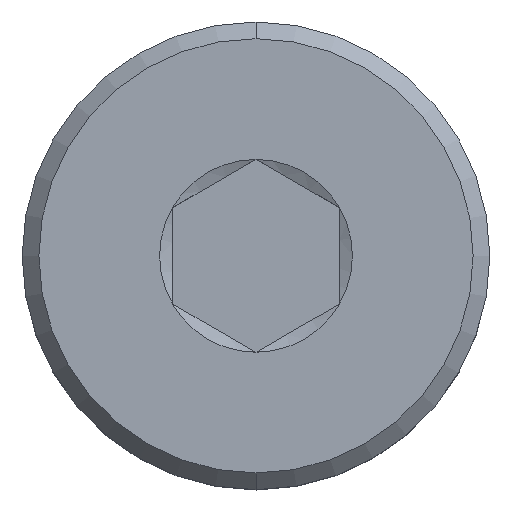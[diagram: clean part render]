
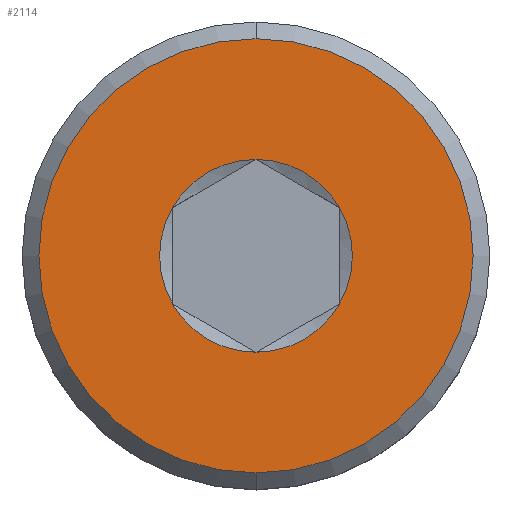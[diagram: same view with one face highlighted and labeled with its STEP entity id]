
A CAD part, top view. The second image highlights one B-rep face of the part: STEP entity #2114.
In plain terms, the highlighted planar face has unit normal (0, 0, 1).
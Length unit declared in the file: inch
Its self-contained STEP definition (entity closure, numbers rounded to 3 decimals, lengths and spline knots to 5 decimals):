
#36 = AXIS2_PLACEMENT_3D ( 'NONE', #11735, #3991, #11820 ) ;
#266 = DIRECTION ( 'NONE',  ( 0., -1., 0. ) ) ;
#529 = CARTESIAN_POINT ( 'NONE',  ( -0.04921, 0.02841, 0. ) ) ;
#572 = EDGE_CURVE ( 'NONE', #9916, #7205, #12292, .T. ) ;
#728 = ORIENTED_EDGE ( 'NONE', *, *, #10533, .F. ) ;
#733 = EDGE_CURVE ( 'NONE', #12506, #11839, #3395, .T. ) ;
#873 = DIRECTION ( 'NONE',  ( 0., 0., 1. ) ) ;
#940 = DIRECTION ( 'NONE',  ( 0., 0., 1. ) ) ;
#1053 = FACE_OUTER_BOUND ( 'NONE', #4734, .T. ) ;
#1125 = ORIENTED_EDGE ( 'NONE', *, *, #6358, .F. ) ;
#1331 = AXIS2_PLACEMENT_3D ( 'NONE', #7128, #8987, #266 ) ;
#1480 = CARTESIAN_POINT ( 'NONE',  ( 0., 0., 0. ) ) ;
#1520 = CARTESIAN_POINT ( 'NONE',  ( 0., 0., 0. ) ) ;
#1582 = CIRCLE ( 'NONE', #2032, 0.05683 ) ;
#1912 = CARTESIAN_POINT ( 'NONE',  ( 0., 0., 0. ) ) ;
#1936 = DIRECTION ( 'NONE',  ( 0., -1., 0. ) ) ;
#2032 = AXIS2_PLACEMENT_3D ( 'NONE', #8577, #11429, #7616 ) ;
#2114 = ADVANCED_FACE ( 'NONE', ( #6137, #1053 ), #6756, .T. ) ;
#2394 = DIRECTION ( 'NONE',  ( 0., -1., 0. ) ) ;
#2557 = DIRECTION ( 'NONE',  ( 0., -1., 0. ) ) ;
#2612 = DIRECTION ( 'NONE',  ( 0., -1., 0. ) ) ;
#2809 = ORIENTED_EDGE ( 'NONE', *, *, #733, .F. ) ;
#2961 = EDGE_CURVE ( 'NONE', #5629, #4489, #6738, .T. ) ;
#3085 = CARTESIAN_POINT ( 'NONE',  ( 0.04921, 0.02841, 0. ) ) ;
#3329 = CIRCLE ( 'NONE', #8672, 0.05683 ) ;
#3395 = CIRCLE ( 'NONE', #1331, 0.05683 ) ;
#3661 = ORIENTED_EDGE ( 'NONE', *, *, #8715, .F. ) ;
#3966 = ORIENTED_EDGE ( 'NONE', *, *, #572, .F. ) ;
#3986 = VERTEX_POINT ( 'NONE', #5619 ) ;
#3991 = DIRECTION ( 'NONE',  ( 0., 0., -1. ) ) ;
#4370 = CARTESIAN_POINT ( 'NONE',  ( -0.04921, -0.02841, 0. ) ) ;
#4475 = CARTESIAN_POINT ( 'NONE',  ( 0., -0.12795, 0. ) ) ;
#4489 = VERTEX_POINT ( 'NONE', #10521 ) ;
#4734 = EDGE_LOOP ( 'NONE', ( #3661, #3966 ) ) ;
#4853 = CIRCLE ( 'NONE', #6801, 0.05683 ) ;
#5003 = CIRCLE ( 'NONE', #5322, 0.12795 ) ;
#5015 = CARTESIAN_POINT ( 'NONE',  ( 0., 0., 0. ) ) ;
#5120 = CIRCLE ( 'NONE', #9026, 0.05683 ) ;
#5322 = AXIS2_PLACEMENT_3D ( 'NONE', #5015, #7947, #10753 ) ;
#5546 = CARTESIAN_POINT ( 'NONE',  ( 0., 0.05683, 0. ) ) ;
#5619 = CARTESIAN_POINT ( 'NONE',  ( 0.04921, -0.02841, 0. ) ) ;
#5629 = VERTEX_POINT ( 'NONE', #4370 ) ;
#6137 = FACE_BOUND ( 'NONE', #9013, .T. ) ;
#6293 = CARTESIAN_POINT ( 'NONE',  ( 0., 0.12795, 0. ) ) ;
#6358 = EDGE_CURVE ( 'NONE', #11839, #5629, #3329, .T. ) ;
#6466 = DIRECTION ( 'NONE',  ( 0., 0., 1. ) ) ;
#6555 = VERTEX_POINT ( 'NONE', #3085 ) ;
#6738 = CIRCLE ( 'NONE', #8917, 0.05683 ) ;
#6756 = PLANE ( 'NONE',  #8828 ) ;
#6801 = AXIS2_PLACEMENT_3D ( 'NONE', #1480, #8186, #2394 ) ;
#7128 = CARTESIAN_POINT ( 'NONE',  ( 0., 0., 0. ) ) ;
#7205 = VERTEX_POINT ( 'NONE', #6293 ) ;
#7616 = DIRECTION ( 'NONE',  ( 0., -1., 0. ) ) ;
#7947 = DIRECTION ( 'NONE',  ( 0., 0., -1. ) ) ;
#8186 = DIRECTION ( 'NONE',  ( 0., 0., 1. ) ) ;
#8298 = CARTESIAN_POINT ( 'NONE',  ( 0., 0., 0. ) ) ;
#8577 = CARTESIAN_POINT ( 'NONE',  ( 0., 0., 0. ) ) ;
#8672 = AXIS2_PLACEMENT_3D ( 'NONE', #1912, #940, #9921 ) ;
#8697 = CARTESIAN_POINT ( 'NONE',  ( 0., 0.12795, 0. ) ) ;
#8715 = EDGE_CURVE ( 'NONE', #7205, #9916, #5003, .T. ) ;
#8810 = ORIENTED_EDGE ( 'NONE', *, *, #11098, .F. ) ;
#8828 = AXIS2_PLACEMENT_3D ( 'NONE', #8697, #873, #1936 ) ;
#8917 = AXIS2_PLACEMENT_3D ( 'NONE', #1520, #6466, #2612 ) ;
#8987 = DIRECTION ( 'NONE',  ( 0., 0., 1. ) ) ;
#9013 = EDGE_LOOP ( 'NONE', ( #12248, #12041, #1125, #2809, #728, #8810 ) ) ;
#9026 = AXIS2_PLACEMENT_3D ( 'NONE', #8298, #10260, #2557 ) ;
#9321 = EDGE_CURVE ( 'NONE', #4489, #3986, #4853, .T. ) ;
#9916 = VERTEX_POINT ( 'NONE', #4475 ) ;
#9921 = DIRECTION ( 'NONE',  ( 0., -1., 0. ) ) ;
#10260 = DIRECTION ( 'NONE',  ( 0., 0., 1. ) ) ;
#10521 = CARTESIAN_POINT ( 'NONE',  ( 0., -0.05683, 0. ) ) ;
#10533 = EDGE_CURVE ( 'NONE', #6555, #12506, #1582, .T. ) ;
#10753 = DIRECTION ( 'NONE',  ( 0., 1., 0. ) ) ;
#11098 = EDGE_CURVE ( 'NONE', #3986, #6555, #5120, .T. ) ;
#11429 = DIRECTION ( 'NONE',  ( 0., 0., 1. ) ) ;
#11735 = CARTESIAN_POINT ( 'NONE',  ( 0., 0., 0. ) ) ;
#11820 = DIRECTION ( 'NONE',  ( 0., 1., 0. ) ) ;
#11839 = VERTEX_POINT ( 'NONE', #529 ) ;
#12041 = ORIENTED_EDGE ( 'NONE', *, *, #2961, .F. ) ;
#12248 = ORIENTED_EDGE ( 'NONE', *, *, #9321, .F. ) ;
#12292 = CIRCLE ( 'NONE', #36, 0.12795 ) ;
#12506 = VERTEX_POINT ( 'NONE', #5546 ) ;
